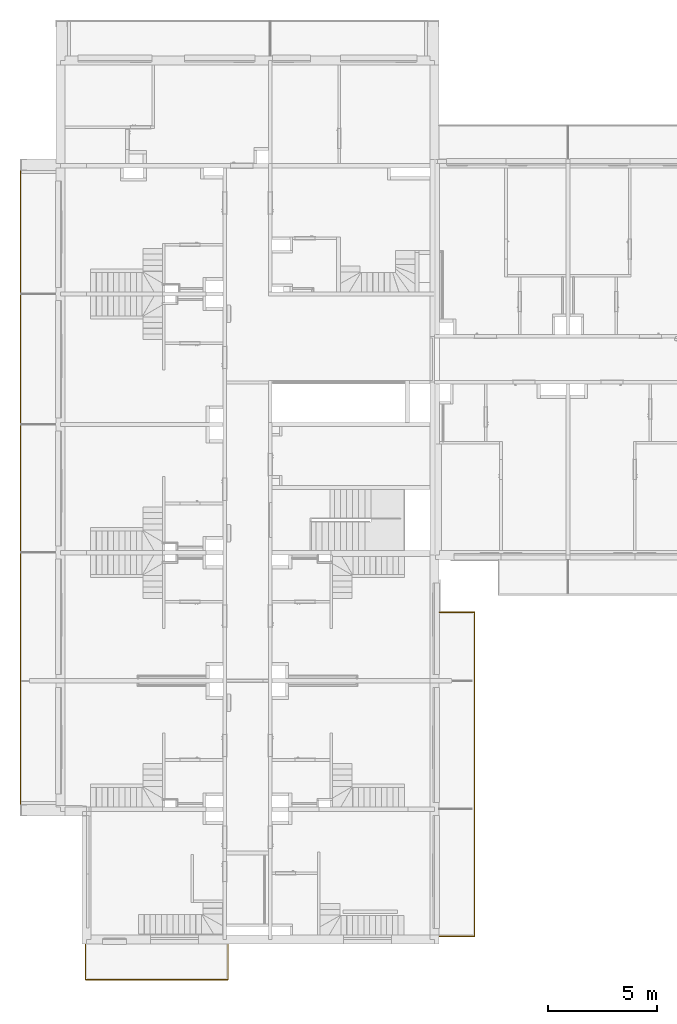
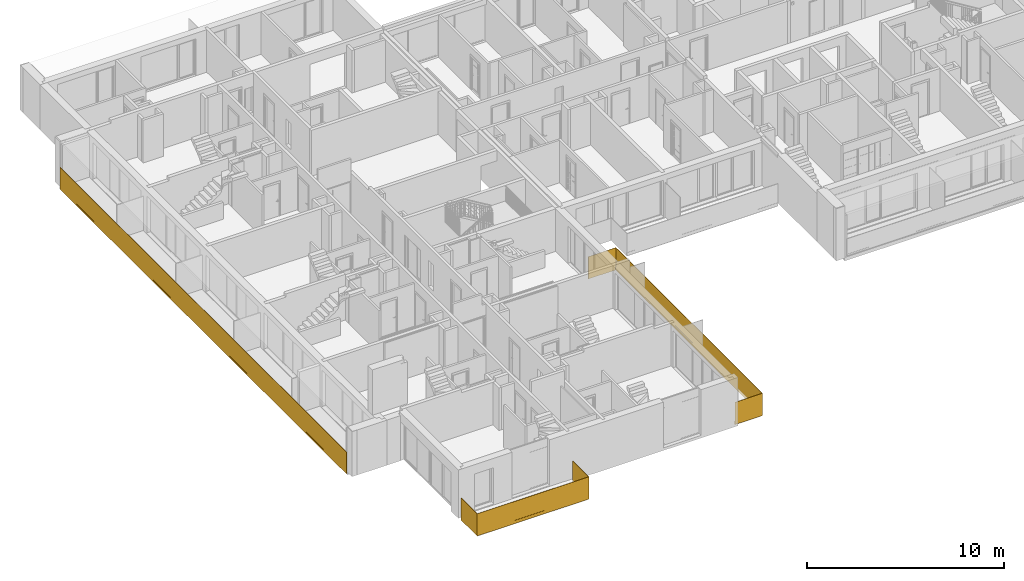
# One storey, part 3 of 61: 3 railings.
"""IFC2X3 building model written with IfcOpenShell, lengths in millimetres."""

from ifc_helpers import new_model, entity, si_unit, converted_unit, derived_unit, money_unit, direction, frame, origin_with_axes, place, context, subcontext, project, spatial, faceted_brep, material, material_list, type_object, element, save


model = new_model("IFC2X3")

# Units and contexts
model_context = context("Model", 3, precision=0.01, world=origin_with_axes(), true_north=direction((0.34421633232, 0.938890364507)))
body_context = subcontext(model_context, "Body", "Model", "MODEL_VIEW")
ifc_project = project(units=[si_unit("LENGTHUNIT", "METRE", prefix="MILLI"), si_unit("AREAUNIT", "SQUARE_METRE"), si_unit("VOLUMEUNIT", "CUBIC_METRE"), converted_unit("PLANEANGLEUNIT", "DEGREE", entity("IfcPlaneAngleMeasure", 0.0174532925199), si_unit("PLANEANGLEUNIT", "RADIAN"), dimensions=[0, 0, 0, 0, 0, 0, 0]), si_unit("SOLIDANGLEUNIT", "STERADIAN"), money_unit("USD"), converted_unit("TIMEUNIT", "Year", entity("IfcTimeMeasure", 31556926.0), si_unit("TIMEUNIT", "SECOND"), dimensions=[0, 0, 1, 0, 0, 0, 0]), si_unit("MASSUNIT", "GRAM", prefix="KILO"), si_unit("THERMODYNAMICTEMPERATUREUNIT", "DEGREE_CELSIUS"), si_unit("LUMINOUSINTENSITYUNIT", "LUMEN"), si_unit("ENERGYUNIT", "JOULE", prefix="MEGA"), derived_unit("THERMALCONDUCTANCEUNIT", [(si_unit("POWERUNIT", "WATT"), 1), (si_unit("LENGTHUNIT", "METRE"), -1), (si_unit("THERMODYNAMICTEMPERATUREUNIT", "KELVIN"), -1)]), derived_unit("SPECIFICHEATCAPACITYUNIT", [(si_unit("ENERGYUNIT", "JOULE"), 1), (si_unit("MASSUNIT", "GRAM", prefix="KILO"), -1), (si_unit("THERMODYNAMICTEMPERATUREUNIT", "KELVIN"), -1)]), derived_unit("MASSDENSITYUNIT", [(si_unit("MASSUNIT", "GRAM", prefix="KILO"), 1), (si_unit("VOLUMEUNIT", "CUBIC_METRE"), -1)])], contexts=[model_context])

# Site, building, storey
site_placement = place(None, origin_with_axes())
site = spatial("IfcSite", under=ifc_project, at=site_placement, Name="USTRONIE MORSKIE", CompositionType="ELEMENT")
building_placement = place(site_placement, origin_with_axes())
building = spatial("IfcBuilding", under=site, at=building_placement, Name="Budynek", CompositionType="ELEMENT")
storey_placement = place(building_placement, frame((0.0, 0.0, 13000.0), z_axis=(0.0, 0.0, 1.0), x_axis=(1.0, 0.0, 0.0)))
storey = spatial("IfcBuildingStorey", under=building, at=storey_placement, Name="PIĘTRO 4", CompositionType="ELEMENT", Elevation=13000.0)

# Railings
ifc_material_1 = material(Name="Szkło struktualne")
ifc_material_2 = material(Name="Profile aluminiowe")
ifc_material_list_1 = material_list([ifc_material_1, ifc_material_2, ifc_material_1, ifc_material_2, ifc_material_1, ifc_material_2])
railing_type = type_object("IfcRailingType", Name="Typ balustrady", PredefinedType="NOTDEFINED")
railing_1_placement = place(storey_placement, frame((357617.920919, 708891.199036, 0.0), z_axis=(0.0, 0.0, 1.0), x_axis=(1.0, 0.0, 0.0)))
element("IfcRailing", 1, at=railing_1_placement, inside=storey, type_object=railing_type, material=ifc_material_list_1, Name="BL1", PredefinedType="NOTDEFINED", context=body_context, shape_type="Brep", body=[
    faceted_brep([(59.9999997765, -19.9999996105, -300.00000039), (59.9999997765, -19.9999996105, 1069.99999972), (59.9999997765, -1649.9999995, 1069.99999972), (59.9999997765, -1649.9999995, -300.00000039), (40.0000002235, -19.9999996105, 1069.99999972), (40.0000002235, -19.9999996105, -300.00000039), (40.0000002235, -1629.99999995, 1069.99999972), (40.0000002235, -1629.99999995, -300.00000039)], [[[0, 1, 2, 3]], [[4, 1, 0, 5]], [[2, 1, 4, 6]], [[3, 2, 6, 7]], [[5, 0, 3, 7]], [[6, 4, 5, 7]]]),
    faceted_brep([(35.0, -1640.0, -105.0), (35.0, -20.0, -105.0), (35.0, -20.0, -305.0), (35.0, -1640.0, -305.0), (40.0, -1640.0, -105.0), (40.0, -20.0, -105.0), (40.0, -20.0, -300.0), (60.0, -20.0, -300.0), (60.0, -20.0, -105.0), (65.0, -20.0, -105.0), (65.0, -20.0, -305.0), (65.0, -1640.0, -305.0), (65.0, -1640.0, -105.0), (60.0, -1640.0, -105.0), (60.0, -1640.0, -300.0), (40.0, -1640.0, -300.0)], [[[0, 1, 2, 3]], [[1, 0, 4, 5]], [[6, 7, 8, 9, 10, 2, 1, 5]], [[10, 11, 3, 2]], [[11, 12, 13, 14, 15, 4, 0, 3]], [[15, 6, 5, 4]], [[7, 6, 15, 14]], [[8, 7, 14, 13]], [[9, 8, 13, 12]], [[11, 10, 9, 12]]]),
    faceted_brep([(60.000000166, -1649.99999978, -300.00000039), (60.000000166, -1649.99999978, 1069.99999972), (-6510.00000013, -1649.99999978, 1069.99999972), (-6510.00000013, -1649.99999978, -300.00000039), (40.000000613, -1630.00000022, 1069.99999972), (40.000000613, -1630.00000022, -300.00000039), (-6490.00000058, -1630.00000022, 1069.99999972), (-6490.00000058, -1630.00000022, -300.00000039)], [[[0, 1, 2, 3]], [[4, 1, 0, 5]], [[2, 1, 4, 6]], [[3, 2, 6, 7]], [[5, 0, 3, 7]], [[6, 4, 5, 7]]]),
    faceted_brep([(-6500.0, -1625.0, -105.0), (50.0, -1625.0, -105.0), (50.0, -1625.0, -305.0), (-6500.0, -1625.0, -305.0), (-6500.0, -1630.0, -105.0), (50.0, -1630.0, -105.0), (50.0, -1630.0, -300.0), (50.0, -1650.0, -300.0), (50.0, -1650.0, -105.0), (50.0, -1655.0, -105.0), (50.0, -1655.0, -305.0), (-6500.0, -1655.0, -305.0), (-6500.0, -1655.0, -105.0), (-6500.0, -1650.0, -105.0), (-6500.0, -1650.0, -300.0), (-6500.0, -1630.0, -300.0)], [[[0, 1, 2, 3]], [[1, 0, 4, 5]], [[6, 7, 8, 9, 10, 2, 1, 5]], [[10, 11, 3, 2]], [[11, 12, 13, 14, 15, 4, 0, 3]], [[15, 6, 5, 4]], [[7, 6, 15, 14]], [[8, 7, 14, 13]], [[9, 8, 13, 12]], [[11, 10, 9, 12]]]),
    faceted_brep([(-6509.99999978, -1650.00000017, -300.00000039), (-6509.99999978, -1650.00000017, 1069.99999972), (-6509.99999978, -19.9993222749, 1069.99999972), (-6509.99999978, -19.9993222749, -300.00000039), (-6490.00000022, -1630.00000061, 1069.99999972), (-6490.00000022, -1630.00000061, -300.00000039), (-6490.00000022, -19.9993222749, 1069.99999972), (-6490.00000022, -19.9993222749, -300.00000039)], [[[0, 1, 2, 3]], [[4, 1, 0, 5]], [[2, 1, 4, 6]], [[3, 2, 6, 7]], [[5, 0, 3, 7]], [[6, 4, 5, 7]]]),
    faceted_brep([(-6485.0, -19.9993224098, -105.0), (-6485.0, -1640.0, -105.0), (-6485.0, -1640.0, -305.0), (-6485.0, -19.9993224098, -305.0), (-6490.0, -19.9993224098, -105.0), (-6490.0, -1640.0, -105.0), (-6490.0, -1640.0, -300.0), (-6510.0, -1640.0, -300.0), (-6510.0, -1640.0, -105.0), (-6515.0, -1640.0, -105.0), (-6515.0, -1640.0, -305.0), (-6515.0, -19.9993224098, -305.0), (-6515.0, -19.9993224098, -105.0), (-6510.0, -19.9993224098, -105.0), (-6510.0, -19.9993224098, -300.0), (-6490.0, -19.9993224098, -300.0)], [[[0, 1, 2, 3]], [[1, 0, 4, 5]], [[6, 7, 8, 9, 10, 2, 1, 5]], [[10, 11, 3, 2]], [[11, 12, 13, 14, 15, 4, 0, 3]], [[15, 6, 5, 4]], [[7, 6, 15, 14]], [[8, 7, 14, 13]], [[9, 8, 13, 12]], [[11, 10, 9, 12]]]),
])
railing_2_placement = place(storey_placement, frame((367367.92707, 724111.198359, 0.0), z_axis=(0.0, 0.0, 1.0), x_axis=(1.0, 0.0, 0.0)))
element("IfcRailing", 2, at=railing_2_placement, inside=storey, type_object=railing_type, material=ifc_material_list_1, Name="BL1", PredefinedType="NOTDEFINED", context=body_context, shape_type="Brep", body=[
    faceted_brep([(29.9999996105, 59.9999997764, -300.00000039), (29.9999996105, 59.9999997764, 1069.99999972), (1659.99896906, 59.9999997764, 1069.99999972), (1659.99896906, 59.9999997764, -300.00000039), (29.9999996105, 40.0000002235, 1069.99999972), (29.9999996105, 40.0000002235, -300.00000039), (1639.99901128, 40.0000002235, 1069.99999972), (1639.99901128, 40.0000002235, -300.00000039)], [[[0, 1, 2, 3]], [[4, 1, 0, 5]], [[2, 1, 4, 6]], [[3, 2, 6, 7]], [[5, 0, 3, 7]], [[6, 4, 5, 7]]]),
    faceted_brep([(1649.99899054, 35.0, -105.0), (30.0, 35.0, -105.0), (30.0, 35.0, -305.0), (1649.99899054, 35.0, -305.0), (1649.99899054, 40.0, -105.0), (30.0, 40.0, -105.0), (30.0, 40.0, -300.0), (30.0, 59.9999999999, -300.0), (30.0, 59.9999999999, -105.0), (30.0, 64.9999999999, -105.0), (30.0, 64.9999999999, -305.0), (1649.99899054, 64.9999999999, -305.0), (1649.99899054, 64.9999999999, -105.0), (1649.99899054, 59.9999999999, -105.0), (1649.99899054, 59.9999999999, -300.0), (1649.99899054, 40.0, -300.0)], [[[0, 1, 2, 3]], [[1, 0, 4, 5]], [[6, 7, 8, 9, 10, 2, 1, 5]], [[10, 11, 3, 2]], [[11, 12, 13, 14, 15, 4, 0, 3]], [[15, 6, 5, 4]], [[7, 6, 15, 14]], [[8, 7, 14, 13]], [[9, 8, 13, 12]], [[11, 10, 9, 12]]]),
    faceted_brep([(1659.99896943, 60.0000001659, -300.00000039), (1659.99896943, 60.0000001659, 1069.99999972), (1660.03015719, -14869.9993224, 1069.99999972), (1660.03015719, -14869.9993224, -300.00000039), (1639.99901165, 40.000000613, 1069.99999972), (1639.99901165, 40.000000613, -300.00000039), (1640.03011585, -14849.9993229, 1069.99999972), (1640.03011585, -14849.9993229, -300.00000039)], [[[0, 1, 2, 3]], [[4, 1, 0, 5]], [[2, 1, 4, 6]], [[3, 2, 6, 7]], [[5, 0, 3, 7]], [[6, 4, 5, 7]]]),
    faceted_brep([(1635.03013652, -14859.9993537, -105.0), (1634.99899054, 49.9999686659, -105.0), (1634.99899054, 49.9999686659, -305.0), (1635.03013652, -14859.9993537, -305.0), (1640.03013652, -14859.9993433, -105.0), (1639.99899054, 49.9999791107, -105.0), (1639.99899054, 49.9999791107, -300.0), (1659.99899054, 50.0000208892, -300.0), (1659.99899054, 50.0000208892, -105.0), (1664.99899054, 50.000031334, -105.0), (1664.99899054, 50.000031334, -305.0), (1665.03013652, -14859.9992911, -305.0), (1665.03013652, -14859.9992911, -105.0), (1660.03013652, -14859.9993015, -105.0), (1660.03013652, -14859.9993015, -300.0), (1640.03013652, -14859.9993433, -300.0)], [[[0, 1, 2, 3]], [[1, 0, 4, 5]], [[6, 7, 8, 9, 10, 2, 1, 5]], [[10, 11, 3, 2]], [[11, 12, 13, 14, 15, 4, 0, 3]], [[15, 6, 5, 4]], [[7, 6, 15, 14]], [[8, 7, 14, 13]], [[9, 8, 13, 12]], [[11, 10, 9, 12]]]),
    faceted_brep([(1660.03015758, -14869.9994242, -300.00000039), (1660.03015758, -14869.9994242, 1069.99999972), (30.0328478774, -14869.9994242, 1069.99999972), (30.0328478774, -14869.9994242, -300.00000039), (1640.03011624, -14849.9994246, 1069.99999972), (1640.03011624, -14849.9994246, -300.00000039), (30.0328478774, -14849.9994246, 1069.99999972), (30.0328478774, -14849.9994246, -300.00000039)], [[[0, 1, 2, 3]], [[4, 1, 0, 5]], [[2, 1, 4, 6]], [[3, 2, 6, 7]], [[5, 0, 3, 7]], [[6, 4, 5, 7]]]),
    faceted_brep([(30.032847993, -14844.9994244, -105.0), (1650.03013652, -14844.9994244, -105.0), (1650.03013652, -14844.9994244, -305.0), (30.032847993, -14844.9994244, -305.0), (30.032847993, -14849.9994244, -105.0), (1650.03013652, -14849.9994244, -105.0), (1650.03013652, -14849.9994244, -300.0), (1650.03013652, -14869.9994244, -300.0), (1650.03013652, -14869.9994244, -105.0), (1650.03013652, -14874.9994244, -105.0), (1650.03013652, -14874.9994244, -305.0), (30.032847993, -14874.9994244, -305.0), (30.032847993, -14874.9994244, -105.0), (30.032847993, -14869.9994244, -105.0), (30.032847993, -14869.9994244, -300.0), (30.032847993, -14849.9994244, -300.0)], [[[0, 1, 2, 3]], [[1, 0, 4, 5]], [[6, 7, 8, 9, 10, 2, 1, 5]], [[10, 11, 3, 2]], [[11, 12, 13, 14, 15, 4, 0, 3]], [[15, 6, 5, 4]], [[7, 6, 15, 14]], [[8, 7, 14, 13]], [[9, 8, 13, 12]], [[11, 10, 9, 12]]]),
])
ifc_material_list_2 = material_list([ifc_material_1, ifc_material_2])
railing_3_placement = place(storey_placement, frame((348117.920919, 744501.199036, -200.0), z_axis=(0.0, 0.0, 1.0), x_axis=(-1.0, 0.0, 0.0)))
element("IfcRailing", 3, at=railing_3_placement, inside=storey, type_object=railing_type, material=ifc_material_list_2, Name="BL1", PredefinedType="NOTDEFINED", context=body_context, shape_type="Brep", body=[
    faceted_brep([(-9.99999999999, 29170.0, -100.0), (-9.99999999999, 20.0, -100.0), (-9.99999999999, 20.0, 1250.0), (-9.99999999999, 29170.0, 1250.0), (9.99999999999, 20.0, -100.0), (9.99999999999, 29170.0, -100.0), (9.99999999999, 20.0, 1250.0), (9.99999999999, 29170.0, 1250.0)], [[[0, 1, 2, 3]], [[4, 1, 0, 5]], [[6, 2, 1, 4]], [[3, 2, 6, 7]], [[0, 3, 7, 5]], [[6, 4, 5, 7]]]),
    faceted_brep([(15.0, 29170.0, -5.0), (15.0, 20.0, -5.0), (15.0, 20.0, -105.0), (15.0, 29170.0, -105.0), (9.99999999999, 29170.0, -5.0), (9.99999999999, 20.0, -5.0), (9.99999999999, 20.0, -100.0), (-9.99999999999, 20.0, -100.0), (-9.99999999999, 20.0, -5.0), (-15.0, 20.0, -5.0), (-15.0, 20.0, -105.0), (-15.0, 29170.0, -105.0), (-15.0, 29170.0, -5.0), (-9.99999999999, 29170.0, -5.0), (-9.99999999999, 29170.0, -100.0), (9.99999999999, 29170.0, -100.0)], [[[0, 1, 2, 3]], [[1, 0, 4, 5]], [[6, 7, 8, 9, 10, 2, 1, 5]], [[10, 11, 3, 2]], [[11, 12, 13, 14, 15, 4, 0, 3]], [[15, 6, 5, 4]], [[7, 6, 15, 14]], [[8, 7, 14, 13]], [[12, 9, 8, 13]], [[11, 10, 9, 12]]]),
])

save(model, "model.ifc")
